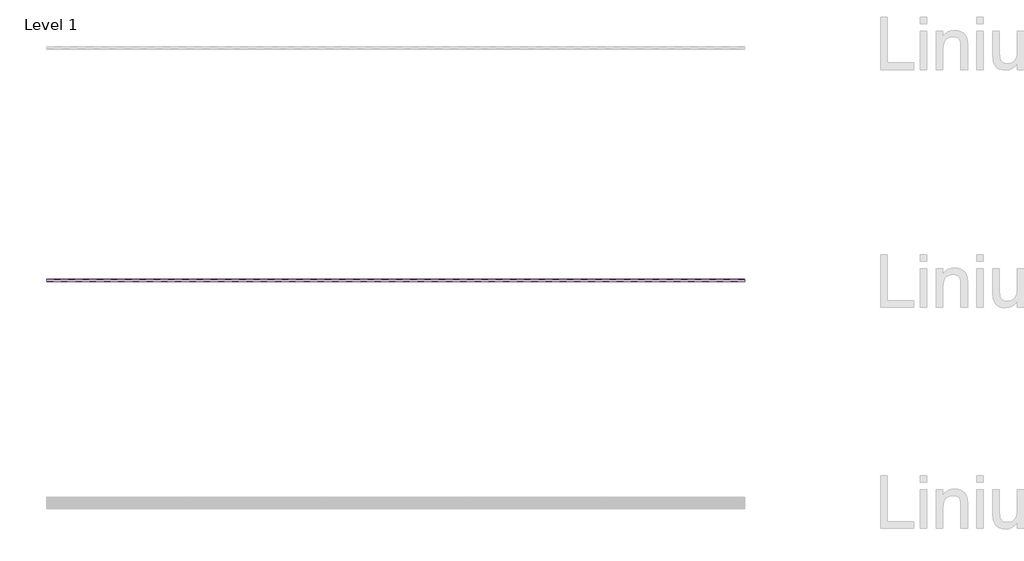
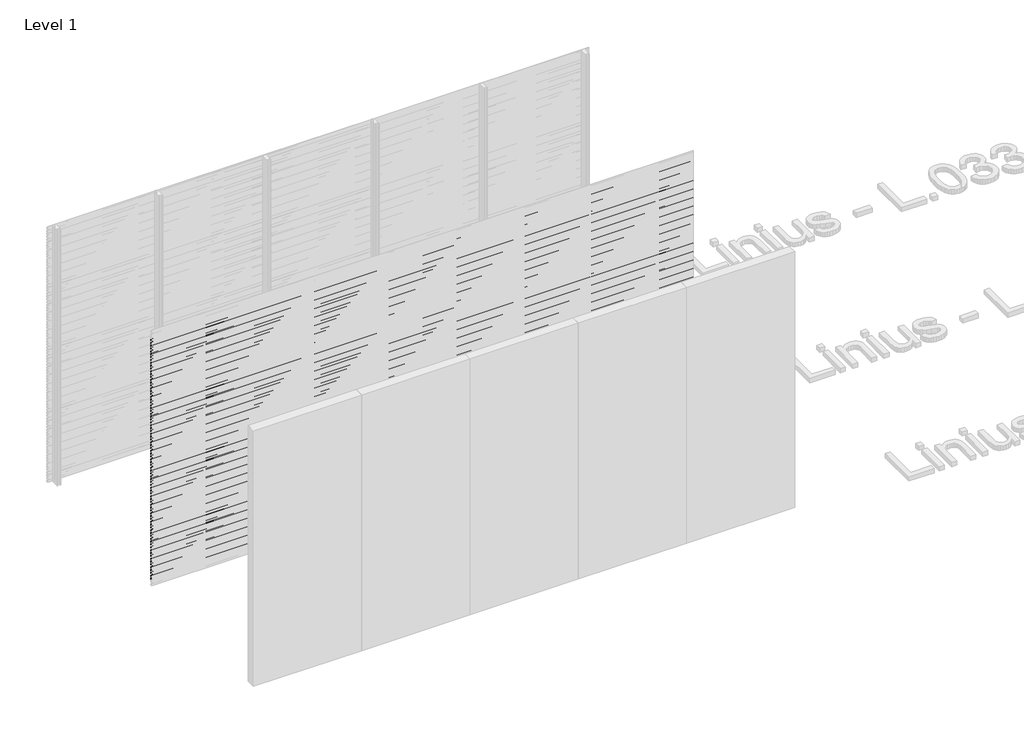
# One storey, part 69 of 507: 85 proxies.
"""IFC4 building model written with IfcOpenShell, lengths in millimetres."""

import ifcopenshell
import ifcopenshell.guid

model = None  # the IFC model being written
_history = None  # IfcOwnerHistory: only IFC2X3 demands one
_inside = {}  # id of a spatial element -> (the spatial element, [elements in it])
_under = {}  # id of a project, library or spatial element -> (it, [spatial elements below it])
_declared = {}  # id of a project -> (the project, [libraries it declares])
_typed = {}  # id of a type object -> (the type object, [elements of that type])
_made_of = {}  # id of a material, layer set ... -> (it, [elements and type objects made of it])


def new_model(schema):
    """Start an empty IFC model of exactly this schema.

    Asked for "IFC4X3", IfcOpenShell would pick the latest addendum, in which some entities
    have other attributes; the version numbers below select the first issue.
    IFC2X3 requires an IfcOwnerHistory on every rooted entity: one is made here for all.
    """
    global model, _history
    if schema == "IFC4X3":
        model = ifcopenshell.file(schema_version=(4, 3, 0, 0))
    else:
        model = ifcopenshell.file(schema=schema)
    _inside.clear()
    _under.clear()
    _declared.clear()
    _typed.clear()
    _made_of.clear()
    _history = None
    if model.schema == "IFC2X3":
        org = make("IfcOrganization", Name="unknown")
        user = make(
            "IfcPersonAndOrganization",
            ThePerson=make("IfcPerson", FamilyName="unknown"),
            TheOrganization=org,
        )
        app = make(
            "IfcApplication",
            ApplicationDeveloper=org,
            Version="unknown",
            ApplicationFullName="unknown",
            ApplicationIdentifier="unknown",
        )
        _history = make(
            "IfcOwnerHistory",
            OwningUser=user,
            OwningApplication=app,
            ChangeAction="ADDED",
            CreationDate=0,
        )
    return model


def make(cls, **values):
    """One entity of the class cls with the attributes given. An attribute that is None is left unset."""
    return model.create_entity(
        cls, **{name: value for name, value in values.items() if value is not None}
    )


def rooted(cls, **values):
    """An entity with a GlobalId (a new one), such as an element, a storey or a relation."""
    return make(cls, GlobalId=ifcopenshell.guid.new(), OwnerHistory=_history, **values)


def si_unit(unit_type, name, prefix=None):
    """IfcSIUnit, for example si_unit("LENGTHUNIT", "METRE", prefix="MILLI")."""
    return make("IfcSIUnit", UnitType=unit_type, Prefix=prefix, Name=name)


def assignment(units):
    """IfcUnitAssignment: the units of a project."""
    return None if units is None else make("IfcUnitAssignment", Units=units)


def point(xyz):
    """IfcCartesianPoint."""
    return None if xyz is None else make("IfcCartesianPoint", Coordinates=xyz)


def direction(xyz):
    """IfcDirection."""
    return None if xyz is None else make("IfcDirection", DirectionRatios=xyz)


def frame(location, z_axis=None, x_axis=None):
    """IfcAxis2Placement3D, a coordinate frame: its origin and axes. An axis left out is left unset."""
    return make(
        "IfcAxis2Placement3D",
        Location=point(location),
        Axis=direction(z_axis),
        RefDirection=direction(x_axis),
    )


def origin():
    """The frame at (0, 0, 0) with its axes left unset."""
    return frame((0.0, 0.0, 0.0))


def place(relative_to, where):
    """IfcLocalPlacement: puts the frame where relative to a parent placement (None: the world)."""
    return make(
        "IfcLocalPlacement", PlacementRelTo=relative_to, RelativePlacement=where
    )


def context(
    kind, dimensions, precision=None, world=None, true_north=None, identifier=None
):
    """IfcGeometricRepresentationContext, for example the 3D "Model" context."""
    return make(
        "IfcGeometricRepresentationContext",
        ContextIdentifier=identifier,
        ContextType=kind,
        CoordinateSpaceDimension=dimensions,
        Precision=precision,
        WorldCoordinateSystem=world,
        TrueNorth=true_north,
    )


def project(units=None, contexts=None):
    """IfcProject with its units and contexts."""
    return rooted(
        "IfcProject",
        Name="project",
        RepresentationContexts=contexts,
        UnitsInContext=assignment(units),
    )


def spatial(cls, under=None, at=None, **own):
    """A site, building, storey or space (cls), placed at a placement, below another one or the project."""
    s = rooted(cls, ObjectPlacement=at, **own)
    if under is not None:
        _under.setdefault(under.id(), (under, []))[1].append(s)
    return s


def polyline(points):
    """IfcPolyline through the points."""
    return make("IfcPolyline", Points=[point(p) for p in points])


def outline(outer, holes=None, kind="AREA"):
    """IfcArbitraryClosedProfileDef: a profile drawn as a closed curve; with holes, ...WithVoids."""
    if holes is None:
        return make("IfcArbitraryClosedProfileDef", ProfileType=kind, OuterCurve=outer)
    return make(
        "IfcArbitraryProfileDefWithVoids",
        ProfileType=kind,
        OuterCurve=outer,
        InnerCurves=holes,
    )


def extrude(swept, where, along, depth):
    """IfcExtrudedAreaSolid: the profile swept, set in the frame where, extruded along a direction by depth."""
    return make(
        "IfcExtrudedAreaSolid",
        SweptArea=swept,
        Position=where,
        ExtrudedDirection=direction(along),
        Depth=depth,
    )


def shape(context_of_items, identifier, shape_type, items):
    """IfcShapeRepresentation: the items that make up one representation, for example the "Body"."""
    return make(
        "IfcShapeRepresentation",
        ContextOfItems=context_of_items,
        RepresentationIdentifier=identifier,
        RepresentationType=shape_type,
        Items=items,
    )


def made_of(thing, what):
    """Note that an element or type object is made of a material, layer set ...; save() writes the relation."""
    if what is not None:
        _made_of.setdefault(what.id(), (what, []))[1].append(thing)
    return thing


def element(
    cls,
    number,
    at=None,
    inside=None,
    cuts=None,
    type_object=None,
    material=None,
    context=None,
    identifier="Body",
    shape_type=None,
    held_by="IfcProductDefinitionShape",
    body=None,
    shapes=None,
    **own,
):
    """One element of the class cls, such as IfcWall. Its Tag is "e" and its number.

    at: its placement. inside: the storey or other place that contains it. cuts: it is an
    opening in that element (IfcRelVoidsElement). A single representation is given by context,
    identifier, shape_type and body (its items); several are given by shapes. held_by: the class
    of the entity that holds the representations. save() writes the other relations.
    """
    e = rooted(cls, Tag="e%d" % number, ObjectPlacement=at, **own)
    if body is not None:
        shapes = [shape(context, identifier, shape_type, body)]
    if shapes is not None:
        e.Representation = make(held_by, Representations=shapes)
    if inside is not None:
        _inside.setdefault(inside.id(), (inside, []))[1].append(e)
    if cuts is not None:
        rooted(
            "IfcRelVoidsElement", RelatingBuildingElement=cuts, RelatedOpeningElement=e
        )
    if type_object is not None:
        _typed.setdefault(type_object.id(), (type_object, []))[1].append(e)
    return made_of(e, material)


def aggregate(whole, parts):
    """IfcRelAggregates: a whole, such as a stair, and the parts it consists of."""
    return rooted("IfcRelAggregates", RelatingObject=whole, RelatedObjects=parts)


def save(model, path):
    """Write the relations noted so far, then the file.

    IfcRelAggregates (storeys below a building ...), IfcRelContainedInSpatialStructure (elements
    in a storey), IfcRelDefinesByType, IfcRelAssociatesMaterial and IfcRelDeclares: one each for
    every whole, place, type object, material and project.
    """
    for whole, parts in _under.values():
        aggregate(whole, parts)
    for where, things in _inside.values():
        rooted(
            "IfcRelContainedInSpatialStructure",
            RelatedElements=things,
            RelatingStructure=where,
        )
    for kind, things in _typed.values():
        rooted("IfcRelDefinesByType", RelatedObjects=things, RelatingType=kind)
    for what, things in _made_of.values():
        rooted("IfcRelAssociatesMaterial", RelatedObjects=things, RelatingMaterial=what)
    for by, libraries in _declared.values():
        rooted("IfcRelDeclares", RelatingContext=by, RelatedDefinitions=libraries)
    model.write(path)


model = new_model("IFC4")

# Units and contexts
model_context = context("Model", 3, world=origin())
ifc_project = project(units=[si_unit("LENGTHUNIT", "METRE", prefix="MILLI")], contexts=[model_context])

# Site, building, storey
site = spatial("IfcSite", under=ifc_project)
building = spatial("IfcBuilding", under=site)
storey = spatial("IfcBuildingStorey", under=building, Name="Level 1", Elevation=0.0)

# Proxies
placement = place(None, origin())
element("IfcBuildingElementProxy", 1, Name="Wall Sweeps", at=placement, inside=storey, context=model_context, shape_type="SweptSolid", body=[
    extrude(outline(polyline([(49503.4540136, 2873.1), (49503.4540136, 2859.6), (49502.2040136, 2860.3216933), (49502.2040136, 2872.3782281), (49483.0540136, 2883.4345698), (49483.0540136, 2897.1), (49484.3040136, 2897.1), (49484.3040136, 2884.1562577), (49503.4540136, 2873.1)])), frame((44966.6208097, 0.0, 0.0), z_axis=(1.0, 0.0, 0.0), x_axis=(0.0, 1.0, 0.0)), (0.0, 0.0, 1.0), 6000.0),
])
element("IfcBuildingElementProxy", 2, Name="Wall Sweeps", at=placement, inside=storey, context=model_context, shape_type="SweptSolid", body=[
    extrude(outline(polyline([(49503.4540136, 2839.8), (49503.4540136, 2826.3), (49502.2040136, 2827.0216933), (49502.2040136, 2839.0782281), (49483.0540136, 2850.1345698), (49483.0540136, 2863.8), (49484.3040136, 2863.8), (49484.3040136, 2850.8562577), (49503.4540136, 2839.8)])), frame((44966.6208097, 0.0, 0.0), z_axis=(1.0, 0.0, 0.0), x_axis=(0.0, 1.0, 0.0)), (0.0, 0.0, 1.0), 6000.0),
])
element("IfcBuildingElementProxy", 3, Name="Wall Sweeps", at=placement, inside=storey, context=model_context, shape_type="SweptSolid", body=[
    extrude(outline(polyline([(49503.4540136, 2806.5), (49503.4540136, 2793.0), (49502.2040136, 2793.7216933), (49502.2040136, 2805.7782281), (49483.0540136, 2816.8345698), (49483.0540136, 2830.5), (49484.3040136, 2830.5), (49484.3040136, 2817.5562577), (49503.4540136, 2806.5)])), frame((44966.6208097, 0.0, 0.0), z_axis=(1.0, 0.0, 0.0), x_axis=(0.0, 1.0, 0.0)), (0.0, 0.0, 1.0), 6000.0),
])
element("IfcBuildingElementProxy", 4, Name="Wall Sweeps", at=placement, inside=storey, context=model_context, shape_type="SweptSolid", body=[
    extrude(outline(polyline([(49503.4540136, 2773.2), (49503.4540136, 2759.7), (49502.2040136, 2760.4216933), (49502.2040136, 2772.4782281), (49483.0540136, 2783.5345698), (49483.0540136, 2797.2), (49484.3040136, 2797.2), (49484.3040136, 2784.2562577), (49503.4540136, 2773.2)])), frame((44966.6208097, 0.0, 0.0), z_axis=(1.0, 0.0, 0.0), x_axis=(0.0, 1.0, 0.0)), (0.0, 0.0, 1.0), 6000.0),
])
element("IfcBuildingElementProxy", 5, Name="Wall Sweeps", at=placement, inside=storey, context=model_context, shape_type="SweptSolid", body=[
    extrude(outline(polyline([(49503.4540136, 2739.9), (49503.4540136, 2726.4), (49502.2040136, 2727.1216933), (49502.2040136, 2739.1782281), (49483.0540136, 2750.2345698), (49483.0540136, 2763.9), (49484.3040136, 2763.9), (49484.3040136, 2750.9562577), (49503.4540136, 2739.9)])), frame((44966.6208097, 0.0, 0.0), z_axis=(1.0, 0.0, 0.0), x_axis=(0.0, 1.0, 0.0)), (0.0, 0.0, 1.0), 6000.0),
])
element("IfcBuildingElementProxy", 6, Name="Wall Sweeps", at=placement, inside=storey, context=model_context, shape_type="SweptSolid", body=[
    extrude(outline(polyline([(49503.4540136, 2706.6), (49503.4540136, 2693.1), (49502.2040136, 2693.8216933), (49502.2040136, 2705.8782281), (49483.0540136, 2716.9345698), (49483.0540136, 2730.6), (49484.3040136, 2730.6), (49484.3040136, 2717.6562577), (49503.4540136, 2706.6)])), frame((44966.6208097, 0.0, 0.0), z_axis=(1.0, 0.0, 0.0), x_axis=(0.0, 1.0, 0.0)), (0.0, 0.0, 1.0), 6000.0),
])
element("IfcBuildingElementProxy", 7, Name="Wall Sweeps", at=placement, inside=storey, context=model_context, shape_type="SweptSolid", body=[
    extrude(outline(polyline([(49503.4540136, 2673.3), (49503.4540136, 2659.8), (49502.2040136, 2660.5216933), (49502.2040136, 2672.5782281), (49483.0540136, 2683.6345698), (49483.0540136, 2697.3), (49484.3040136, 2697.3), (49484.3040136, 2684.3562577), (49503.4540136, 2673.3)])), frame((44966.6208097, 0.0, 0.0), z_axis=(1.0, 0.0, 0.0), x_axis=(0.0, 1.0, 0.0)), (0.0, 0.0, 1.0), 6000.0),
])
element("IfcBuildingElementProxy", 8, Name="Wall Sweeps", at=placement, inside=storey, context=model_context, shape_type="SweptSolid", body=[
    extrude(outline(polyline([(49503.4540136, 2640.0), (49503.4540136, 2626.5), (49502.2040136, 2627.2216933), (49502.2040136, 2639.2782281), (49483.0540136, 2650.3345698), (49483.0540136, 2664.0), (49484.3040136, 2664.0), (49484.3040136, 2651.0562577), (49503.4540136, 2640.0)])), frame((44966.6208097, 0.0, 0.0), z_axis=(1.0, 0.0, 0.0), x_axis=(0.0, 1.0, 0.0)), (0.0, 0.0, 1.0), 6000.0),
])
element("IfcBuildingElementProxy", 9, Name="Wall Sweeps", at=placement, inside=storey, context=model_context, shape_type="SweptSolid", body=[
    extrude(outline(polyline([(49503.4540136, 2606.7), (49503.4540136, 2593.2), (49502.2040136, 2593.9216933), (49502.2040136, 2605.9782281), (49483.0540136, 2617.0345698), (49483.0540136, 2630.7), (49484.3040136, 2630.7), (49484.3040136, 2617.7562577), (49503.4540136, 2606.7)])), frame((44966.6208097, 0.0, 0.0), z_axis=(1.0, 0.0, 0.0), x_axis=(0.0, 1.0, 0.0)), (0.0, 0.0, 1.0), 6000.0),
])
element("IfcBuildingElementProxy", 10, Name="Wall Sweeps", at=placement, inside=storey, context=model_context, shape_type="SweptSolid", body=[
    extrude(outline(polyline([(49503.4540136, 2573.4), (49503.4540136, 2559.9), (49502.2040136, 2560.6216933), (49502.2040136, 2572.6782281), (49483.0540136, 2583.7345698), (49483.0540136, 2597.4), (49484.3040136, 2597.4), (49484.3040136, 2584.4562577), (49503.4540136, 2573.4)])), frame((44966.6208097, 0.0, 0.0), z_axis=(1.0, 0.0, 0.0), x_axis=(0.0, 1.0, 0.0)), (0.0, 0.0, 1.0), 6000.0),
])
element("IfcBuildingElementProxy", 11, Name="Wall Sweeps", at=placement, inside=storey, context=model_context, shape_type="SweptSolid", body=[
    extrude(outline(polyline([(49503.4540136, 2540.1), (49503.4540136, 2526.6), (49502.2040136, 2527.3216933), (49502.2040136, 2539.3782281), (49483.0540136, 2550.4345698), (49483.0540136, 2564.1), (49484.3040136, 2564.1), (49484.3040136, 2551.1562577), (49503.4540136, 2540.1)])), frame((44966.6208097, 0.0, 0.0), z_axis=(1.0, 0.0, 0.0), x_axis=(0.0, 1.0, 0.0)), (0.0, 0.0, 1.0), 6000.0),
])
element("IfcBuildingElementProxy", 12, Name="Wall Sweeps", at=placement, inside=storey, context=model_context, shape_type="SweptSolid", body=[
    extrude(outline(polyline([(49503.4540136, 2506.8), (49503.4540136, 2493.3), (49502.2040136, 2494.0216933), (49502.2040136, 2506.0782281), (49483.0540136, 2517.1345698), (49483.0540136, 2530.8), (49484.3040136, 2530.8), (49484.3040136, 2517.8562577), (49503.4540136, 2506.8)])), frame((44966.6208097, 0.0, 0.0), z_axis=(1.0, 0.0, 0.0), x_axis=(0.0, 1.0, 0.0)), (0.0, 0.0, 1.0), 6000.0),
])
element("IfcBuildingElementProxy", 13, Name="Wall Sweeps", at=placement, inside=storey, context=model_context, shape_type="SweptSolid", body=[
    extrude(outline(polyline([(49503.4540136, 2473.5), (49503.4540136, 2460.0), (49502.2040136, 2460.7216933), (49502.2040136, 2472.7782281), (49483.0540136, 2483.8345698), (49483.0540136, 2497.5), (49484.3040136, 2497.5), (49484.3040136, 2484.5562577), (49503.4540136, 2473.5)])), frame((44966.6208097, 0.0, 0.0), z_axis=(1.0, 0.0, 0.0), x_axis=(0.0, 1.0, 0.0)), (0.0, 0.0, 1.0), 6000.0),
])
element("IfcBuildingElementProxy", 14, Name="Wall Sweeps", at=placement, inside=storey, context=model_context, shape_type="SweptSolid", body=[
    extrude(outline(polyline([(49503.4540136, 2440.2), (49503.4540136, 2426.7), (49502.2040136, 2427.4216933), (49502.2040136, 2439.4782281), (49483.0540136, 2450.5345698), (49483.0540136, 2464.2), (49484.3040136, 2464.2), (49484.3040136, 2451.2562577), (49503.4540136, 2440.2)])), frame((44966.6208097, 0.0, 0.0), z_axis=(1.0, 0.0, 0.0), x_axis=(0.0, 1.0, 0.0)), (0.0, 0.0, 1.0), 6000.0),
])
element("IfcBuildingElementProxy", 15, Name="Wall Sweeps", at=placement, inside=storey, context=model_context, shape_type="SweptSolid", body=[
    extrude(outline(polyline([(49503.4540136, 2406.9), (49503.4540136, 2393.4), (49502.2040136, 2394.1216933), (49502.2040136, 2406.1782281), (49483.0540136, 2417.2345698), (49483.0540136, 2430.9), (49484.3040136, 2430.9), (49484.3040136, 2417.9562577), (49503.4540136, 2406.9)])), frame((44966.6208097, 0.0, 0.0), z_axis=(1.0, 0.0, 0.0), x_axis=(0.0, 1.0, 0.0)), (0.0, 0.0, 1.0), 6000.0),
])
element("IfcBuildingElementProxy", 16, Name="Wall Sweeps", at=placement, inside=storey, context=model_context, shape_type="SweptSolid", body=[
    extrude(outline(polyline([(49503.4540136, 2373.6), (49503.4540136, 2360.1), (49502.2040136, 2360.8216933), (49502.2040136, 2372.8782281), (49483.0540136, 2383.9345698), (49483.0540136, 2397.6), (49484.3040136, 2397.6), (49484.3040136, 2384.6562577), (49503.4540136, 2373.6)])), frame((44966.6208097, 0.0, 0.0), z_axis=(1.0, 0.0, 0.0), x_axis=(0.0, 1.0, 0.0)), (0.0, 0.0, 1.0), 6000.0),
])
element("IfcBuildingElementProxy", 17, Name="Wall Sweeps", at=placement, inside=storey, context=model_context, shape_type="SweptSolid", body=[
    extrude(outline(polyline([(49503.4540136, 2340.3), (49503.4540136, 2326.8), (49502.2040136, 2327.5216933), (49502.2040136, 2339.5782281), (49483.0540136, 2350.6345698), (49483.0540136, 2364.3), (49484.3040136, 2364.3), (49484.3040136, 2351.3562577), (49503.4540136, 2340.3)])), frame((44966.6208097, 0.0, 0.0), z_axis=(1.0, 0.0, 0.0), x_axis=(0.0, 1.0, 0.0)), (0.0, 0.0, 1.0), 6000.0),
])
element("IfcBuildingElementProxy", 18, Name="Wall Sweeps", at=placement, inside=storey, context=model_context, shape_type="SweptSolid", body=[
    extrude(outline(polyline([(49503.4540136, 2307.0), (49503.4540136, 2293.5), (49502.2040136, 2294.2216933), (49502.2040136, 2306.2782281), (49483.0540136, 2317.3345698), (49483.0540136, 2331.0), (49484.3040136, 2331.0), (49484.3040136, 2318.0562577), (49503.4540136, 2307.0)])), frame((44966.6208097, 0.0, 0.0), z_axis=(1.0, 0.0, 0.0), x_axis=(0.0, 1.0, 0.0)), (0.0, 0.0, 1.0), 6000.0),
])
element("IfcBuildingElementProxy", 19, Name="Wall Sweeps", at=placement, inside=storey, context=model_context, shape_type="SweptSolid", body=[
    extrude(outline(polyline([(49503.4540136, 2273.7), (49503.4540136, 2260.2), (49502.2040136, 2260.9216933), (49502.2040136, 2272.9782281), (49483.0540136, 2284.0345698), (49483.0540136, 2297.7), (49484.3040136, 2297.7), (49484.3040136, 2284.7562577), (49503.4540136, 2273.7)])), frame((44966.6208097, 0.0, 0.0), z_axis=(1.0, 0.0, 0.0), x_axis=(0.0, 1.0, 0.0)), (0.0, 0.0, 1.0), 6000.0),
])
element("IfcBuildingElementProxy", 20, Name="Wall Sweeps", at=placement, inside=storey, context=model_context, shape_type="SweptSolid", body=[
    extrude(outline(polyline([(49503.4540136, 2240.4), (49503.4540136, 2226.9), (49502.2040136, 2227.6216933), (49502.2040136, 2239.6782281), (49483.0540136, 2250.7345698), (49483.0540136, 2264.4), (49484.3040136, 2264.4), (49484.3040136, 2251.4562577), (49503.4540136, 2240.4)])), frame((44966.6208097, 0.0, 0.0), z_axis=(1.0, 0.0, 0.0), x_axis=(0.0, 1.0, 0.0)), (0.0, 0.0, 1.0), 6000.0),
])
element("IfcBuildingElementProxy", 21, Name="Wall Sweeps", at=placement, inside=storey, context=model_context, shape_type="SweptSolid", body=[
    extrude(outline(polyline([(49503.4540136, 2207.1), (49503.4540136, 2193.6), (49502.2040136, 2194.3216933), (49502.2040136, 2206.3782281), (49483.0540136, 2217.4345698), (49483.0540136, 2231.1), (49484.3040136, 2231.1), (49484.3040136, 2218.1562577), (49503.4540136, 2207.1)])), frame((44966.6208097, 0.0, 0.0), z_axis=(1.0, 0.0, 0.0), x_axis=(0.0, 1.0, 0.0)), (0.0, 0.0, 1.0), 6000.0),
])
element("IfcBuildingElementProxy", 22, Name="Wall Sweeps", at=placement, inside=storey, context=model_context, shape_type="SweptSolid", body=[
    extrude(outline(polyline([(49503.4540136, 2173.8), (49503.4540136, 2160.3), (49502.2040136, 2161.0216933), (49502.2040136, 2173.0782281), (49483.0540136, 2184.1345698), (49483.0540136, 2197.8), (49484.3040136, 2197.8), (49484.3040136, 2184.8562577), (49503.4540136, 2173.8)])), frame((44966.6208097, 0.0, 0.0), z_axis=(1.0, 0.0, 0.0), x_axis=(0.0, 1.0, 0.0)), (0.0, 0.0, 1.0), 6000.0),
])
element("IfcBuildingElementProxy", 23, Name="Wall Sweeps", at=placement, inside=storey, context=model_context, shape_type="SweptSolid", body=[
    extrude(outline(polyline([(49503.4540136, 2140.5), (49503.4540136, 2127.0), (49502.2040136, 2127.7216933), (49502.2040136, 2139.7782281), (49483.0540136, 2150.8345698), (49483.0540136, 2164.5), (49484.3040136, 2164.5), (49484.3040136, 2151.5562577), (49503.4540136, 2140.5)])), frame((44966.6208097, 0.0, 0.0), z_axis=(1.0, 0.0, 0.0), x_axis=(0.0, 1.0, 0.0)), (0.0, 0.0, 1.0), 6000.0),
])
element("IfcBuildingElementProxy", 24, Name="Wall Sweeps", at=placement, inside=storey, context=model_context, shape_type="SweptSolid", body=[
    extrude(outline(polyline([(49503.4540136, 2107.2), (49503.4540136, 2093.7), (49502.2040136, 2094.4216933), (49502.2040136, 2106.4782281), (49483.0540136, 2117.5345698), (49483.0540136, 2131.2), (49484.3040136, 2131.2), (49484.3040136, 2118.2562577), (49503.4540136, 2107.2)])), frame((44966.6208097, 0.0, 0.0), z_axis=(1.0, 0.0, 0.0), x_axis=(0.0, 1.0, 0.0)), (0.0, 0.0, 1.0), 6000.0),
])
element("IfcBuildingElementProxy", 25, Name="Wall Sweeps", at=placement, inside=storey, context=model_context, shape_type="SweptSolid", body=[
    extrude(outline(polyline([(49503.4540136, 2073.9), (49503.4540136, 2060.4), (49502.2040136, 2061.1216933), (49502.2040136, 2073.1782281), (49483.0540136, 2084.2345698), (49483.0540136, 2097.9), (49484.3040136, 2097.9), (49484.3040136, 2084.9562577), (49503.4540136, 2073.9)])), frame((44966.6208097, 0.0, 0.0), z_axis=(1.0, 0.0, 0.0), x_axis=(0.0, 1.0, 0.0)), (0.0, 0.0, 1.0), 6000.0),
])
element("IfcBuildingElementProxy", 26, Name="Wall Sweeps", at=placement, inside=storey, context=model_context, shape_type="SweptSolid", body=[
    extrude(outline(polyline([(49503.4540136, 2040.6), (49503.4540136, 2027.1), (49502.2040136, 2027.8216933), (49502.2040136, 2039.8782281), (49483.0540136, 2050.9345698), (49483.0540136, 2064.6), (49484.3040136, 2064.6), (49484.3040136, 2051.6562577), (49503.4540136, 2040.6)])), frame((44966.6208097, 0.0, 0.0), z_axis=(1.0, 0.0, 0.0), x_axis=(0.0, 1.0, 0.0)), (0.0, 0.0, 1.0), 6000.0),
])
element("IfcBuildingElementProxy", 27, Name="Wall Sweeps", at=placement, inside=storey, context=model_context, shape_type="SweptSolid", body=[
    extrude(outline(polyline([(49503.4540136, 2007.3), (49503.4540136, 1993.8), (49502.2040136, 1994.5216933), (49502.2040136, 2006.5782281), (49483.0540136, 2017.6345698), (49483.0540136, 2031.3), (49484.3040136, 2031.3), (49484.3040136, 2018.3562577), (49503.4540136, 2007.3)])), frame((44966.6208097, 0.0, 0.0), z_axis=(1.0, 0.0, 0.0), x_axis=(0.0, 1.0, 0.0)), (0.0, 0.0, 1.0), 6000.0),
])
element("IfcBuildingElementProxy", 28, Name="Wall Sweeps", at=placement, inside=storey, context=model_context, shape_type="SweptSolid", body=[
    extrude(outline(polyline([(49503.4540136, 1974.0), (49503.4540136, 1960.5), (49502.2040136, 1961.2216933), (49502.2040136, 1973.2782281), (49483.0540136, 1984.3345698), (49483.0540136, 1998.0), (49484.3040136, 1998.0), (49484.3040136, 1985.0562577), (49503.4540136, 1974.0)])), frame((44966.6208097, 0.0, 0.0), z_axis=(1.0, 0.0, 0.0), x_axis=(0.0, 1.0, 0.0)), (0.0, 0.0, 1.0), 6000.0),
])
element("IfcBuildingElementProxy", 29, Name="Wall Sweeps", at=placement, inside=storey, context=model_context, shape_type="SweptSolid", body=[
    extrude(outline(polyline([(49503.4540136, 1940.7), (49503.4540136, 1927.2), (49502.2040136, 1927.9216933), (49502.2040136, 1939.9782281), (49483.0540136, 1951.0345698), (49483.0540136, 1964.7), (49484.3040136, 1964.7), (49484.3040136, 1951.7562577), (49503.4540136, 1940.7)])), frame((44966.6208097, 0.0, 0.0), z_axis=(1.0, 0.0, 0.0), x_axis=(0.0, 1.0, 0.0)), (0.0, 0.0, 1.0), 6000.0),
])
element("IfcBuildingElementProxy", 30, Name="Wall Sweeps", at=placement, inside=storey, context=model_context, shape_type="SweptSolid", body=[
    extrude(outline(polyline([(49503.4540136, 1907.4), (49503.4540136, 1893.9), (49502.2040136, 1894.6216933), (49502.2040136, 1906.6782281), (49483.0540136, 1917.7345698), (49483.0540136, 1931.4), (49484.3040136, 1931.4), (49484.3040136, 1918.4562577), (49503.4540136, 1907.4)])), frame((44966.6208097, 0.0, 0.0), z_axis=(1.0, 0.0, 0.0), x_axis=(0.0, 1.0, 0.0)), (0.0, 0.0, 1.0), 6000.0),
])
element("IfcBuildingElementProxy", 31, Name="Wall Sweeps", at=placement, inside=storey, context=model_context, shape_type="SweptSolid", body=[
    extrude(outline(polyline([(49503.4540136, 1874.1), (49503.4540136, 1860.6), (49502.2040136, 1861.3216933), (49502.2040136, 1873.3782281), (49483.0540136, 1884.4345698), (49483.0540136, 1898.1), (49484.3040136, 1898.1), (49484.3040136, 1885.1562577), (49503.4540136, 1874.1)])), frame((44966.6208097, 0.0, 0.0), z_axis=(1.0, 0.0, 0.0), x_axis=(0.0, 1.0, 0.0)), (0.0, 0.0, 1.0), 6000.0),
])
element("IfcBuildingElementProxy", 32, Name="Wall Sweeps", at=placement, inside=storey, context=model_context, shape_type="SweptSolid", body=[
    extrude(outline(polyline([(49503.4540136, 1840.8), (49503.4540136, 1827.3), (49502.2040136, 1828.0216933), (49502.2040136, 1840.0782281), (49483.0540136, 1851.1345698), (49483.0540136, 1864.8), (49484.3040136, 1864.8), (49484.3040136, 1851.8562577), (49503.4540136, 1840.8)])), frame((44966.6208097, 0.0, 0.0), z_axis=(1.0, 0.0, 0.0), x_axis=(0.0, 1.0, 0.0)), (0.0, 0.0, 1.0), 6000.0),
])
element("IfcBuildingElementProxy", 33, Name="Wall Sweeps", at=placement, inside=storey, context=model_context, shape_type="SweptSolid", body=[
    extrude(outline(polyline([(49503.4540136, 1807.5), (49503.4540136, 1794.0), (49502.2040136, 1794.7216933), (49502.2040136, 1806.7782281), (49483.0540136, 1817.8345698), (49483.0540136, 1831.5), (49484.3040136, 1831.5), (49484.3040136, 1818.5562577), (49503.4540136, 1807.5)])), frame((44966.6208097, 0.0, 0.0), z_axis=(1.0, 0.0, 0.0), x_axis=(0.0, 1.0, 0.0)), (0.0, 0.0, 1.0), 6000.0),
])
element("IfcBuildingElementProxy", 34, Name="Wall Sweeps", at=placement, inside=storey, context=model_context, shape_type="SweptSolid", body=[
    extrude(outline(polyline([(49503.4540136, 1774.2), (49503.4540136, 1760.7), (49502.2040136, 1761.4216933), (49502.2040136, 1773.4782281), (49483.0540136, 1784.5345698), (49483.0540136, 1798.2), (49484.3040136, 1798.2), (49484.3040136, 1785.2562577), (49503.4540136, 1774.2)])), frame((44966.6208097, 0.0, 0.0), z_axis=(1.0, 0.0, 0.0), x_axis=(0.0, 1.0, 0.0)), (0.0, 0.0, 1.0), 6000.0),
])
element("IfcBuildingElementProxy", 35, Name="Wall Sweeps", at=placement, inside=storey, context=model_context, shape_type="SweptSolid", body=[
    extrude(outline(polyline([(49503.4540136, 1740.9), (49503.4540136, 1727.4), (49502.2040136, 1728.1216933), (49502.2040136, 1740.1782281), (49483.0540136, 1751.2345698), (49483.0540136, 1764.9), (49484.3040136, 1764.9), (49484.3040136, 1751.9562577), (49503.4540136, 1740.9)])), frame((44966.6208097, 0.0, 0.0), z_axis=(1.0, 0.0, 0.0), x_axis=(0.0, 1.0, 0.0)), (0.0, 0.0, 1.0), 6000.0),
])
element("IfcBuildingElementProxy", 36, Name="Wall Sweeps", at=placement, inside=storey, context=model_context, shape_type="SweptSolid", body=[
    extrude(outline(polyline([(49503.4540136, 1707.6), (49503.4540136, 1694.1), (49502.2040136, 1694.8216933), (49502.2040136, 1706.8782281), (49483.0540136, 1717.9345698), (49483.0540136, 1731.6), (49484.3040136, 1731.6), (49484.3040136, 1718.6562577), (49503.4540136, 1707.6)])), frame((44966.6208097, 0.0, 0.0), z_axis=(1.0, 0.0, 0.0), x_axis=(0.0, 1.0, 0.0)), (0.0, 0.0, 1.0), 6000.0),
])
element("IfcBuildingElementProxy", 37, Name="Wall Sweeps", at=placement, inside=storey, context=model_context, shape_type="SweptSolid", body=[
    extrude(outline(polyline([(49503.4540136, 1674.3), (49503.4540136, 1660.8), (49502.2040136, 1661.5216933), (49502.2040136, 1673.5782281), (49483.0540136, 1684.6345698), (49483.0540136, 1698.3), (49484.3040136, 1698.3), (49484.3040136, 1685.3562577), (49503.4540136, 1674.3)])), frame((44966.6208097, 0.0, 0.0), z_axis=(1.0, 0.0, 0.0), x_axis=(0.0, 1.0, 0.0)), (0.0, 0.0, 1.0), 6000.0),
])
element("IfcBuildingElementProxy", 38, Name="Wall Sweeps", at=placement, inside=storey, context=model_context, shape_type="SweptSolid", body=[
    extrude(outline(polyline([(49503.4540136, 1641.0), (49503.4540136, 1627.5), (49502.2040136, 1628.2216933), (49502.2040136, 1640.2782281), (49483.0540136, 1651.3345698), (49483.0540136, 1665.0), (49484.3040136, 1665.0), (49484.3040136, 1652.0562577), (49503.4540136, 1641.0)])), frame((44966.6208097, 0.0, 0.0), z_axis=(1.0, 0.0, 0.0), x_axis=(0.0, 1.0, 0.0)), (0.0, 0.0, 1.0), 6000.0),
])
element("IfcBuildingElementProxy", 39, Name="Wall Sweeps", at=placement, inside=storey, context=model_context, shape_type="SweptSolid", body=[
    extrude(outline(polyline([(49503.4540136, 1607.7), (49503.4540136, 1594.2), (49502.2040136, 1594.9216933), (49502.2040136, 1606.9782281), (49483.0540136, 1618.0345698), (49483.0540136, 1631.7), (49484.3040136, 1631.7), (49484.3040136, 1618.7562577), (49503.4540136, 1607.7)])), frame((44966.6208097, 0.0, 0.0), z_axis=(1.0, 0.0, 0.0), x_axis=(0.0, 1.0, 0.0)), (0.0, 0.0, 1.0), 6000.0),
])
element("IfcBuildingElementProxy", 40, Name="Wall Sweeps", at=placement, inside=storey, context=model_context, shape_type="SweptSolid", body=[
    extrude(outline(polyline([(49503.4540136, 1574.4), (49503.4540136, 1560.9), (49502.2040136, 1561.6216933), (49502.2040136, 1573.6782281), (49483.0540136, 1584.7345698), (49483.0540136, 1598.4), (49484.3040136, 1598.4), (49484.3040136, 1585.4562577), (49503.4540136, 1574.4)])), frame((44966.6208097, 0.0, 0.0), z_axis=(1.0, 0.0, 0.0), x_axis=(0.0, 1.0, 0.0)), (0.0, 0.0, 1.0), 6000.0),
])
element("IfcBuildingElementProxy", 41, Name="Wall Sweeps", at=placement, inside=storey, context=model_context, shape_type="SweptSolid", body=[
    extrude(outline(polyline([(49503.4540136, 1541.1), (49503.4540136, 1527.6), (49502.2040136, 1528.3216933), (49502.2040136, 1540.3782281), (49483.0540136, 1551.4345698), (49483.0540136, 1565.1), (49484.3040136, 1565.1), (49484.3040136, 1552.1562577), (49503.4540136, 1541.1)])), frame((44966.6208097, 0.0, 0.0), z_axis=(1.0, 0.0, 0.0), x_axis=(0.0, 1.0, 0.0)), (0.0, 0.0, 1.0), 6000.0),
])
element("IfcBuildingElementProxy", 42, Name="Wall Sweeps", at=placement, inside=storey, context=model_context, shape_type="SweptSolid", body=[
    extrude(outline(polyline([(49503.4540136, 1507.8), (49503.4540136, 1494.3), (49502.2040136, 1495.0216933), (49502.2040136, 1507.0782281), (49483.0540136, 1518.1345698), (49483.0540136, 1531.8), (49484.3040136, 1531.8), (49484.3040136, 1518.8562577), (49503.4540136, 1507.8)])), frame((44966.6208097, 0.0, 0.0), z_axis=(1.0, 0.0, 0.0), x_axis=(0.0, 1.0, 0.0)), (0.0, 0.0, 1.0), 6000.0),
])
element("IfcBuildingElementProxy", 43, Name="Wall Sweeps", at=placement, inside=storey, context=model_context, shape_type="SweptSolid", body=[
    extrude(outline(polyline([(49503.4540136, 1474.5), (49503.4540136, 1461.0), (49502.2040136, 1461.7216933), (49502.2040136, 1473.7782281), (49483.0540136, 1484.8345698), (49483.0540136, 1498.5), (49484.3040136, 1498.5), (49484.3040136, 1485.5562577), (49503.4540136, 1474.5)])), frame((44966.6208097, 0.0, 0.0), z_axis=(1.0, 0.0, 0.0), x_axis=(0.0, 1.0, 0.0)), (0.0, 0.0, 1.0), 6000.0),
])
element("IfcBuildingElementProxy", 44, Name="Wall Sweeps", at=placement, inside=storey, context=model_context, shape_type="SweptSolid", body=[
    extrude(outline(polyline([(49503.4540136, 1441.2), (49503.4540136, 1427.7), (49502.2040136, 1428.4216933), (49502.2040136, 1440.4782281), (49483.0540136, 1451.5345698), (49483.0540136, 1465.2), (49484.3040136, 1465.2), (49484.3040136, 1452.2562577), (49503.4540136, 1441.2)])), frame((44966.6208097, 0.0, 0.0), z_axis=(1.0, 0.0, 0.0), x_axis=(0.0, 1.0, 0.0)), (0.0, 0.0, 1.0), 6000.0),
])
element("IfcBuildingElementProxy", 45, Name="Wall Sweeps", at=placement, inside=storey, context=model_context, shape_type="SweptSolid", body=[
    extrude(outline(polyline([(49503.4540136, 1407.9), (49503.4540136, 1394.4), (49502.2040136, 1395.1216933), (49502.2040136, 1407.1782281), (49483.0540136, 1418.2345698), (49483.0540136, 1431.9), (49484.3040136, 1431.9), (49484.3040136, 1418.9562577), (49503.4540136, 1407.9)])), frame((44966.6208097, 0.0, 0.0), z_axis=(1.0, 0.0, 0.0), x_axis=(0.0, 1.0, 0.0)), (0.0, 0.0, 1.0), 6000.0),
])
element("IfcBuildingElementProxy", 46, Name="Wall Sweeps", at=placement, inside=storey, context=model_context, shape_type="SweptSolid", body=[
    extrude(outline(polyline([(49503.4540136, 1374.6), (49503.4540136, 1361.1), (49502.2040136, 1361.8216933), (49502.2040136, 1373.8782281), (49483.0540136, 1384.9345698), (49483.0540136, 1398.6), (49484.3040136, 1398.6), (49484.3040136, 1385.6562577), (49503.4540136, 1374.6)])), frame((44966.6208097, 0.0, 0.0), z_axis=(1.0, 0.0, 0.0), x_axis=(0.0, 1.0, 0.0)), (0.0, 0.0, 1.0), 6000.0),
])
element("IfcBuildingElementProxy", 47, Name="Wall Sweeps", at=placement, inside=storey, context=model_context, shape_type="SweptSolid", body=[
    extrude(outline(polyline([(49503.4540136, 1341.3), (49503.4540136, 1327.8), (49502.2040136, 1328.5216933), (49502.2040136, 1340.5782281), (49483.0540136, 1351.6345698), (49483.0540136, 1365.3), (49484.3040136, 1365.3), (49484.3040136, 1352.3562577), (49503.4540136, 1341.3)])), frame((44966.6208097, 0.0, 0.0), z_axis=(1.0, 0.0, 0.0), x_axis=(0.0, 1.0, 0.0)), (0.0, 0.0, 1.0), 6000.0),
])
element("IfcBuildingElementProxy", 48, Name="Wall Sweeps", at=placement, inside=storey, context=model_context, shape_type="SweptSolid", body=[
    extrude(outline(polyline([(49503.4540136, 1308.0), (49503.4540136, 1294.5), (49502.2040136, 1295.2216933), (49502.2040136, 1307.2782281), (49483.0540136, 1318.3345698), (49483.0540136, 1332.0), (49484.3040136, 1332.0), (49484.3040136, 1319.0562577), (49503.4540136, 1308.0)])), frame((44966.6208097, 0.0, 0.0), z_axis=(1.0, 0.0, 0.0), x_axis=(0.0, 1.0, 0.0)), (0.0, 0.0, 1.0), 6000.0),
])
element("IfcBuildingElementProxy", 49, Name="Wall Sweeps", at=placement, inside=storey, context=model_context, shape_type="SweptSolid", body=[
    extrude(outline(polyline([(49503.4540136, 1274.7), (49503.4540136, 1261.2), (49502.2040136, 1261.9216933), (49502.2040136, 1273.9782281), (49483.0540136, 1285.0345698), (49483.0540136, 1298.7), (49484.3040136, 1298.7), (49484.3040136, 1285.7562577), (49503.4540136, 1274.7)])), frame((44966.6208097, 0.0, 0.0), z_axis=(1.0, 0.0, 0.0), x_axis=(0.0, 1.0, 0.0)), (0.0, 0.0, 1.0), 6000.0),
])
element("IfcBuildingElementProxy", 50, Name="Wall Sweeps", at=placement, inside=storey, context=model_context, shape_type="SweptSolid", body=[
    extrude(outline(polyline([(49503.4540136, 1241.4), (49503.4540136, 1227.9), (49502.2040136, 1228.6216933), (49502.2040136, 1240.6782281), (49483.0540136, 1251.7345698), (49483.0540136, 1265.4), (49484.3040136, 1265.4), (49484.3040136, 1252.4562577), (49503.4540136, 1241.4)])), frame((44966.6208097, 0.0, 0.0), z_axis=(1.0, 0.0, 0.0), x_axis=(0.0, 1.0, 0.0)), (0.0, 0.0, 1.0), 6000.0),
])
element("IfcBuildingElementProxy", 51, Name="Wall Sweeps", at=placement, inside=storey, context=model_context, shape_type="SweptSolid", body=[
    extrude(outline(polyline([(49503.4540136, 1208.1), (49503.4540136, 1194.6), (49502.2040136, 1195.3216933), (49502.2040136, 1207.3782281), (49483.0540136, 1218.4345698), (49483.0540136, 1232.1), (49484.3040136, 1232.1), (49484.3040136, 1219.1562577), (49503.4540136, 1208.1)])), frame((44966.6208097, 0.0, 0.0), z_axis=(1.0, 0.0, 0.0), x_axis=(0.0, 1.0, 0.0)), (0.0, 0.0, 1.0), 6000.0),
])
element("IfcBuildingElementProxy", 52, Name="Wall Sweeps", at=placement, inside=storey, context=model_context, shape_type="SweptSolid", body=[
    extrude(outline(polyline([(49503.4540136, 1174.8), (49503.4540136, 1161.3), (49502.2040136, 1162.0216933), (49502.2040136, 1174.0782281), (49483.0540136, 1185.1345698), (49483.0540136, 1198.8), (49484.3040136, 1198.8), (49484.3040136, 1185.8562577), (49503.4540136, 1174.8)])), frame((44966.6208097, 0.0, 0.0), z_axis=(1.0, 0.0, 0.0), x_axis=(0.0, 1.0, 0.0)), (0.0, 0.0, 1.0), 6000.0),
])
element("IfcBuildingElementProxy", 53, Name="Wall Sweeps", at=placement, inside=storey, context=model_context, shape_type="SweptSolid", body=[
    extrude(outline(polyline([(49503.4540136, 1141.5), (49503.4540136, 1128.0), (49502.2040136, 1128.7216933), (49502.2040136, 1140.7782281), (49483.0540136, 1151.8345698), (49483.0540136, 1165.5), (49484.3040136, 1165.5), (49484.3040136, 1152.5562577), (49503.4540136, 1141.5)])), frame((44966.6208097, 0.0, 0.0), z_axis=(1.0, 0.0, 0.0), x_axis=(0.0, 1.0, 0.0)), (0.0, 0.0, 1.0), 6000.0),
])
element("IfcBuildingElementProxy", 54, Name="Wall Sweeps", at=placement, inside=storey, context=model_context, shape_type="SweptSolid", body=[
    extrude(outline(polyline([(49503.4540136, 1108.2), (49503.4540136, 1094.7), (49502.2040136, 1095.4216933), (49502.2040136, 1107.4782281), (49483.0540136, 1118.5345698), (49483.0540136, 1132.2), (49484.3040136, 1132.2), (49484.3040136, 1119.2562577), (49503.4540136, 1108.2)])), frame((44966.6208097, 0.0, 0.0), z_axis=(1.0, 0.0, 0.0), x_axis=(0.0, 1.0, 0.0)), (0.0, 0.0, 1.0), 6000.0),
])
element("IfcBuildingElementProxy", 55, Name="Wall Sweeps", at=placement, inside=storey, context=model_context, shape_type="SweptSolid", body=[
    extrude(outline(polyline([(49503.4540136, 1074.9), (49503.4540136, 1061.4), (49502.2040136, 1062.1216933), (49502.2040136, 1074.1782281), (49483.0540136, 1085.2345698), (49483.0540136, 1098.9), (49484.3040136, 1098.9), (49484.3040136, 1085.9562577), (49503.4540136, 1074.9)])), frame((44966.6208097, 0.0, 0.0), z_axis=(1.0, 0.0, 0.0), x_axis=(0.0, 1.0, 0.0)), (0.0, 0.0, 1.0), 6000.0),
])
element("IfcBuildingElementProxy", 56, Name="Wall Sweeps", at=placement, inside=storey, context=model_context, shape_type="SweptSolid", body=[
    extrude(outline(polyline([(49503.4540136, 1041.6), (49503.4540136, 1028.1), (49502.2040136, 1028.8216933), (49502.2040136, 1040.8782281), (49483.0540136, 1051.9345698), (49483.0540136, 1065.6), (49484.3040136, 1065.6), (49484.3040136, 1052.6562577), (49503.4540136, 1041.6)])), frame((44966.6208097, 0.0, 0.0), z_axis=(1.0, 0.0, 0.0), x_axis=(0.0, 1.0, 0.0)), (0.0, 0.0, 1.0), 6000.0),
])
element("IfcBuildingElementProxy", 57, Name="Wall Sweeps", at=placement, inside=storey, context=model_context, shape_type="SweptSolid", body=[
    extrude(outline(polyline([(49503.4540136, 1008.3), (49503.4540136, 994.8), (49502.2040136, 995.5216933), (49502.2040136, 1007.5782281), (49483.0540136, 1018.6345698), (49483.0540136, 1032.3), (49484.3040136, 1032.3), (49484.3040136, 1019.3562577), (49503.4540136, 1008.3)])), frame((44966.6208097, 0.0, 0.0), z_axis=(1.0, 0.0, 0.0), x_axis=(0.0, 1.0, 0.0)), (0.0, 0.0, 1.0), 6000.0),
])
element("IfcBuildingElementProxy", 58, Name="Wall Sweeps", at=placement, inside=storey, context=model_context, shape_type="SweptSolid", body=[
    extrude(outline(polyline([(49503.4540136, 975.0), (49503.4540136, 961.5), (49502.2040136, 962.2216933), (49502.2040136, 974.2782281), (49483.0540136, 985.3345698), (49483.0540136, 999.0), (49484.3040136, 999.0), (49484.3040136, 986.0562577), (49503.4540136, 975.0)])), frame((44966.6208097, 0.0, 0.0), z_axis=(1.0, 0.0, 0.0), x_axis=(0.0, 1.0, 0.0)), (0.0, 0.0, 1.0), 6000.0),
])
element("IfcBuildingElementProxy", 59, Name="Wall Sweeps", at=placement, inside=storey, context=model_context, shape_type="SweptSolid", body=[
    extrude(outline(polyline([(49503.4540136, 941.7), (49503.4540136, 928.2), (49502.2040136, 928.9216933), (49502.2040136, 940.9782281), (49483.0540136, 952.0345698), (49483.0540136, 965.7), (49484.3040136, 965.7), (49484.3040136, 952.7562577), (49503.4540136, 941.7)])), frame((44966.6208097, 0.0, 0.0), z_axis=(1.0, 0.0, 0.0), x_axis=(0.0, 1.0, 0.0)), (0.0, 0.0, 1.0), 6000.0),
])
element("IfcBuildingElementProxy", 60, Name="Wall Sweeps", at=placement, inside=storey, context=model_context, shape_type="SweptSolid", body=[
    extrude(outline(polyline([(49503.4540136, 908.4), (49503.4540136, 894.9), (49502.2040136, 895.6216933), (49502.2040136, 907.6782281), (49483.0540136, 918.7345698), (49483.0540136, 932.4), (49484.3040136, 932.4), (49484.3040136, 919.4562577), (49503.4540136, 908.4)])), frame((44966.6208097, 0.0, 0.0), z_axis=(1.0, 0.0, 0.0), x_axis=(0.0, 1.0, 0.0)), (0.0, 0.0, 1.0), 6000.0),
])
element("IfcBuildingElementProxy", 61, Name="Wall Sweeps", at=placement, inside=storey, context=model_context, shape_type="SweptSolid", body=[
    extrude(outline(polyline([(49503.4540136, 875.1), (49503.4540136, 861.6), (49502.2040136, 862.3216933), (49502.2040136, 874.3782281), (49483.0540136, 885.4345698), (49483.0540136, 899.1), (49484.3040136, 899.1), (49484.3040136, 886.1562577), (49503.4540136, 875.1)])), frame((44966.6208097, 0.0, 0.0), z_axis=(1.0, 0.0, 0.0), x_axis=(0.0, 1.0, 0.0)), (0.0, 0.0, 1.0), 6000.0),
])
element("IfcBuildingElementProxy", 62, Name="Wall Sweeps", at=placement, inside=storey, context=model_context, shape_type="SweptSolid", body=[
    extrude(outline(polyline([(49503.4540136, 841.8), (49503.4540136, 828.3), (49502.2040136, 829.0216933), (49502.2040136, 841.0782281), (49483.0540136, 852.1345698), (49483.0540136, 865.8), (49484.3040136, 865.8), (49484.3040136, 852.8562577), (49503.4540136, 841.8)])), frame((44966.6208097, 0.0, 0.0), z_axis=(1.0, 0.0, 0.0), x_axis=(0.0, 1.0, 0.0)), (0.0, 0.0, 1.0), 6000.0),
])
element("IfcBuildingElementProxy", 63, Name="Wall Sweeps", at=placement, inside=storey, context=model_context, shape_type="SweptSolid", body=[
    extrude(outline(polyline([(49503.4540136, 808.5), (49503.4540136, 795.0), (49502.2040136, 795.7216933), (49502.2040136, 807.7782281), (49483.0540136, 818.8345698), (49483.0540136, 832.5), (49484.3040136, 832.5), (49484.3040136, 819.5562577), (49503.4540136, 808.5)])), frame((44966.6208097, 0.0, 0.0), z_axis=(1.0, 0.0, 0.0), x_axis=(0.0, 1.0, 0.0)), (0.0, 0.0, 1.0), 6000.0),
])
element("IfcBuildingElementProxy", 64, Name="Wall Sweeps", at=placement, inside=storey, context=model_context, shape_type="SweptSolid", body=[
    extrude(outline(polyline([(49503.4540136, 775.2), (49503.4540136, 761.7), (49502.2040136, 762.4216933), (49502.2040136, 774.4782281), (49483.0540136, 785.5345698), (49483.0540136, 799.2), (49484.3040136, 799.2), (49484.3040136, 786.2562577), (49503.4540136, 775.2)])), frame((44966.6208097, 0.0, 0.0), z_axis=(1.0, 0.0, 0.0), x_axis=(0.0, 1.0, 0.0)), (0.0, 0.0, 1.0), 6000.0),
])
element("IfcBuildingElementProxy", 65, Name="Wall Sweeps", at=placement, inside=storey, context=model_context, shape_type="SweptSolid", body=[
    extrude(outline(polyline([(49503.4540136, 741.9), (49503.4540136, 728.4), (49502.2040136, 729.1216933), (49502.2040136, 741.1782281), (49483.0540136, 752.2345698), (49483.0540136, 765.9), (49484.3040136, 765.9), (49484.3040136, 752.9562577), (49503.4540136, 741.9)])), frame((44966.6208097, 0.0, 0.0), z_axis=(1.0, 0.0, 0.0), x_axis=(0.0, 1.0, 0.0)), (0.0, 0.0, 1.0), 6000.0),
])
element("IfcBuildingElementProxy", 66, Name="Wall Sweeps", at=placement, inside=storey, context=model_context, shape_type="SweptSolid", body=[
    extrude(outline(polyline([(49503.4540136, 708.6), (49503.4540136, 695.1), (49502.2040136, 695.8216933), (49502.2040136, 707.8782281), (49483.0540136, 718.9345698), (49483.0540136, 732.6), (49484.3040136, 732.6), (49484.3040136, 719.6562577), (49503.4540136, 708.6)])), frame((44966.6208097, 0.0, 0.0), z_axis=(1.0, 0.0, 0.0), x_axis=(0.0, 1.0, 0.0)), (0.0, 0.0, 1.0), 6000.0),
])
element("IfcBuildingElementProxy", 67, Name="Wall Sweeps", at=placement, inside=storey, context=model_context, shape_type="SweptSolid", body=[
    extrude(outline(polyline([(49503.4540136, 675.3), (49503.4540136, 661.8), (49502.2040136, 662.5216933), (49502.2040136, 674.5782281), (49483.0540136, 685.6345698), (49483.0540136, 699.3), (49484.3040136, 699.3), (49484.3040136, 686.3562577), (49503.4540136, 675.3)])), frame((44966.6208097, 0.0, 0.0), z_axis=(1.0, 0.0, 0.0), x_axis=(0.0, 1.0, 0.0)), (0.0, 0.0, 1.0), 6000.0),
])
element("IfcBuildingElementProxy", 68, Name="Wall Sweeps", at=placement, inside=storey, context=model_context, shape_type="SweptSolid", body=[
    extrude(outline(polyline([(49503.4540136, 642.0), (49503.4540136, 628.5), (49502.2040136, 629.2216933), (49502.2040136, 641.2782281), (49483.0540136, 652.3345698), (49483.0540136, 666.0), (49484.3040136, 666.0), (49484.3040136, 653.0562577), (49503.4540136, 642.0)])), frame((44966.6208097, 0.0, 0.0), z_axis=(1.0, 0.0, 0.0), x_axis=(0.0, 1.0, 0.0)), (0.0, 0.0, 1.0), 6000.0),
])
element("IfcBuildingElementProxy", 69, Name="Wall Sweeps", at=placement, inside=storey, context=model_context, shape_type="SweptSolid", body=[
    extrude(outline(polyline([(49503.4540136, 608.7), (49503.4540136, 595.2), (49502.2040136, 595.9216933), (49502.2040136, 607.9782281), (49483.0540136, 619.0345698), (49483.0540136, 632.7), (49484.3040136, 632.7), (49484.3040136, 619.7562577), (49503.4540136, 608.7)])), frame((44966.6208097, 0.0, 0.0), z_axis=(1.0, 0.0, 0.0), x_axis=(0.0, 1.0, 0.0)), (0.0, 0.0, 1.0), 6000.0),
])
element("IfcBuildingElementProxy", 70, Name="Wall Sweeps", at=placement, inside=storey, context=model_context, shape_type="SweptSolid", body=[
    extrude(outline(polyline([(49503.4540136, 575.4), (49503.4540136, 561.9), (49502.2040136, 562.6216933), (49502.2040136, 574.6782281), (49483.0540136, 585.7345698), (49483.0540136, 599.4), (49484.3040136, 599.4), (49484.3040136, 586.4562577), (49503.4540136, 575.4)])), frame((44966.6208097, 0.0, 0.0), z_axis=(1.0, 0.0, 0.0), x_axis=(0.0, 1.0, 0.0)), (0.0, 0.0, 1.0), 6000.0),
])
element("IfcBuildingElementProxy", 71, Name="Wall Sweeps", at=placement, inside=storey, context=model_context, shape_type="SweptSolid", body=[
    extrude(outline(polyline([(49503.4540136, 542.1), (49503.4540136, 528.6), (49502.2040136, 529.3216933), (49502.2040136, 541.3782281), (49483.0540136, 552.4345698), (49483.0540136, 566.1), (49484.3040136, 566.1), (49484.3040136, 553.1562577), (49503.4540136, 542.1)])), frame((44966.6208097, 0.0, 0.0), z_axis=(1.0, 0.0, 0.0), x_axis=(0.0, 1.0, 0.0)), (0.0, 0.0, 1.0), 6000.0),
])
element("IfcBuildingElementProxy", 72, Name="Wall Sweeps", at=placement, inside=storey, context=model_context, shape_type="SweptSolid", body=[
    extrude(outline(polyline([(49503.4540136, 508.8), (49503.4540136, 495.3), (49502.2040136, 496.0216933), (49502.2040136, 508.0782281), (49483.0540136, 519.1345698), (49483.0540136, 532.8), (49484.3040136, 532.8), (49484.3040136, 519.8562577), (49503.4540136, 508.8)])), frame((44966.6208097, 0.0, 0.0), z_axis=(1.0, 0.0, 0.0), x_axis=(0.0, 1.0, 0.0)), (0.0, 0.0, 1.0), 6000.0),
])
element("IfcBuildingElementProxy", 73, Name="Wall Sweeps", at=placement, inside=storey, context=model_context, shape_type="SweptSolid", body=[
    extrude(outline(polyline([(49503.4540136, 475.5), (49503.4540136, 462.0), (49502.2040136, 462.7216933), (49502.2040136, 474.7782281), (49483.0540136, 485.8345698), (49483.0540136, 499.5), (49484.3040136, 499.5), (49484.3040136, 486.5562577), (49503.4540136, 475.5)])), frame((44966.6208097, 0.0, 0.0), z_axis=(1.0, 0.0, 0.0), x_axis=(0.0, 1.0, 0.0)), (0.0, 0.0, 1.0), 6000.0),
])
element("IfcBuildingElementProxy", 74, Name="Wall Sweeps", at=placement, inside=storey, context=model_context, shape_type="SweptSolid", body=[
    extrude(outline(polyline([(49503.4540136, 442.2), (49503.4540136, 428.7), (49502.2040136, 429.4216933), (49502.2040136, 441.4782281), (49483.0540136, 452.5345698), (49483.0540136, 466.2), (49484.3040136, 466.2), (49484.3040136, 453.2562577), (49503.4540136, 442.2)])), frame((44966.6208097, 0.0, 0.0), z_axis=(1.0, 0.0, 0.0), x_axis=(0.0, 1.0, 0.0)), (0.0, 0.0, 1.0), 6000.0),
])
element("IfcBuildingElementProxy", 75, Name="Wall Sweeps", at=placement, inside=storey, context=model_context, shape_type="SweptSolid", body=[
    extrude(outline(polyline([(49503.4540136, 408.9), (49503.4540136, 395.4), (49502.2040136, 396.1216933), (49502.2040136, 408.1782281), (49483.0540136, 419.2345698), (49483.0540136, 432.9), (49484.3040136, 432.9), (49484.3040136, 419.9562577), (49503.4540136, 408.9)])), frame((44966.6208097, 0.0, 0.0), z_axis=(1.0, 0.0, 0.0), x_axis=(0.0, 1.0, 0.0)), (0.0, 0.0, 1.0), 6000.0),
])
element("IfcBuildingElementProxy", 76, Name="Wall Sweeps", at=placement, inside=storey, context=model_context, shape_type="SweptSolid", body=[
    extrude(outline(polyline([(49503.4540136, 375.6), (49503.4540136, 362.1), (49502.2040136, 362.8216933), (49502.2040136, 374.8782281), (49483.0540136, 385.9345698), (49483.0540136, 399.6), (49484.3040136, 399.6), (49484.3040136, 386.6562577), (49503.4540136, 375.6)])), frame((44966.6208097, 0.0, 0.0), z_axis=(1.0, 0.0, 0.0), x_axis=(0.0, 1.0, 0.0)), (0.0, 0.0, 1.0), 6000.0),
])
element("IfcBuildingElementProxy", 77, Name="Wall Sweeps", at=placement, inside=storey, context=model_context, shape_type="SweptSolid", body=[
    extrude(outline(polyline([(49503.4540136, 342.3), (49503.4540136, 328.8), (49502.2040136, 329.5216933), (49502.2040136, 341.5782281), (49483.0540136, 352.6345698), (49483.0540136, 366.3), (49484.3040136, 366.3), (49484.3040136, 353.3562577), (49503.4540136, 342.3)])), frame((44966.6208097, 0.0, 0.0), z_axis=(1.0, 0.0, 0.0), x_axis=(0.0, 1.0, 0.0)), (0.0, 0.0, 1.0), 6000.0),
])
element("IfcBuildingElementProxy", 78, Name="Wall Sweeps", at=placement, inside=storey, context=model_context, shape_type="SweptSolid", body=[
    extrude(outline(polyline([(49503.4540136, 309.0), (49503.4540136, 295.5), (49502.2040136, 296.2216933), (49502.2040136, 308.2782281), (49483.0540136, 319.3345698), (49483.0540136, 333.0), (49484.3040136, 333.0), (49484.3040136, 320.0562577), (49503.4540136, 309.0)])), frame((44966.6208097, 0.0, 0.0), z_axis=(1.0, 0.0, 0.0), x_axis=(0.0, 1.0, 0.0)), (0.0, 0.0, 1.0), 6000.0),
])
element("IfcBuildingElementProxy", 79, Name="Wall Sweeps", at=placement, inside=storey, context=model_context, shape_type="SweptSolid", body=[
    extrude(outline(polyline([(49503.4540136, 275.7), (49503.4540136, 262.2), (49502.2040136, 262.9216933), (49502.2040136, 274.9782281), (49483.0540136, 286.0345698), (49483.0540136, 299.7), (49484.3040136, 299.7), (49484.3040136, 286.7562577), (49503.4540136, 275.7)])), frame((44966.6208097, 0.0, 0.0), z_axis=(1.0, 0.0, 0.0), x_axis=(0.0, 1.0, 0.0)), (0.0, 0.0, 1.0), 6000.0),
])
element("IfcBuildingElementProxy", 80, Name="Wall Sweeps", at=placement, inside=storey, context=model_context, shape_type="SweptSolid", body=[
    extrude(outline(polyline([(49503.4540136, 242.4), (49503.4540136, 228.9), (49502.2040136, 229.6216933), (49502.2040136, 241.6782281), (49483.0540136, 252.7345698), (49483.0540136, 266.4), (49484.3040136, 266.4), (49484.3040136, 253.4562577), (49503.4540136, 242.4)])), frame((44966.6208097, 0.0, 0.0), z_axis=(1.0, 0.0, 0.0), x_axis=(0.0, 1.0, 0.0)), (0.0, 0.0, 1.0), 6000.0),
])
element("IfcBuildingElementProxy", 81, Name="Wall Sweeps", at=placement, inside=storey, context=model_context, shape_type="SweptSolid", body=[
    extrude(outline(polyline([(49503.4540136, 209.1), (49503.4540136, 195.6), (49502.2040136, 196.3216933), (49502.2040136, 208.3782281), (49483.0540136, 219.4345698), (49483.0540136, 233.1), (49484.3040136, 233.1), (49484.3040136, 220.1562577), (49503.4540136, 209.1)])), frame((44966.6208097, 0.0, 0.0), z_axis=(1.0, 0.0, 0.0), x_axis=(0.0, 1.0, 0.0)), (0.0, 0.0, 1.0), 6000.0),
])
element("IfcBuildingElementProxy", 82, Name="Wall Sweeps", at=placement, inside=storey, context=model_context, shape_type="SweptSolid", body=[
    extrude(outline(polyline([(49503.4540136, 175.8), (49503.4540136, 162.3), (49502.2040136, 163.0216933), (49502.2040136, 175.0782281), (49483.0540136, 186.1345698), (49483.0540136, 199.8), (49484.3040136, 199.8), (49484.3040136, 186.8562577), (49503.4540136, 175.8)])), frame((44966.6208097, 0.0, 0.0), z_axis=(1.0, 0.0, 0.0), x_axis=(0.0, 1.0, 0.0)), (0.0, 0.0, 1.0), 6000.0),
])
element("IfcBuildingElementProxy", 83, Name="Wall Sweeps", at=placement, inside=storey, context=model_context, shape_type="SweptSolid", body=[
    extrude(outline(polyline([(49503.4540136, 142.5), (49503.4540136, 129.0), (49502.2040136, 129.7216933), (49502.2040136, 141.7782281), (49483.0540136, 152.8345698), (49483.0540136, 166.5), (49484.3040136, 166.5), (49484.3040136, 153.5562577), (49503.4540136, 142.5)])), frame((44966.6208097, 0.0, 0.0), z_axis=(1.0, 0.0, 0.0), x_axis=(0.0, 1.0, 0.0)), (0.0, 0.0, 1.0), 6000.0),
])
element("IfcBuildingElementProxy", 84, Name="Wall Sweeps", at=placement, inside=storey, context=model_context, shape_type="SweptSolid", body=[
    extrude(outline(polyline([(49503.4540136, 109.2), (49503.4540136, 95.7), (49502.2040136, 96.4216933), (49502.2040136, 108.4782281), (49483.0540136, 119.5345698), (49483.0540136, 133.2), (49484.3040136, 133.2), (49484.3040136, 120.2562577), (49503.4540136, 109.2)])), frame((44966.6208097, 0.0, 0.0), z_axis=(1.0, 0.0, 0.0), x_axis=(0.0, 1.0, 0.0)), (0.0, 0.0, 1.0), 6000.0),
])
element("IfcBuildingElementProxy", 85, Name="Wall Sweeps", at=placement, inside=storey, context=model_context, shape_type="SweptSolid", body=[
    extrude(outline(polyline([(49503.4540136, 75.9), (49503.4540136, 62.4), (49502.2040136, 63.1216933), (49502.2040136, 75.1782281), (49483.0540136, 86.2345698), (49483.0540136, 99.9), (49484.3040136, 99.9), (49484.3040136, 86.9562577), (49503.4540136, 75.9)])), frame((44966.6208097, 0.0, 0.0), z_axis=(1.0, 0.0, 0.0), x_axis=(0.0, 1.0, 0.0)), (0.0, 0.0, 1.0), 6000.0),
])

save(model, "model.ifc")
